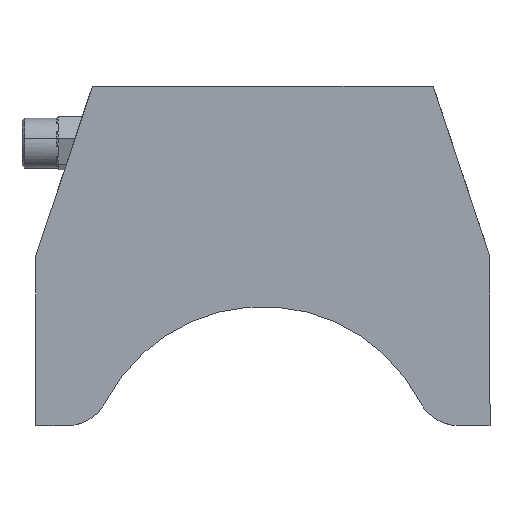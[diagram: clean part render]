
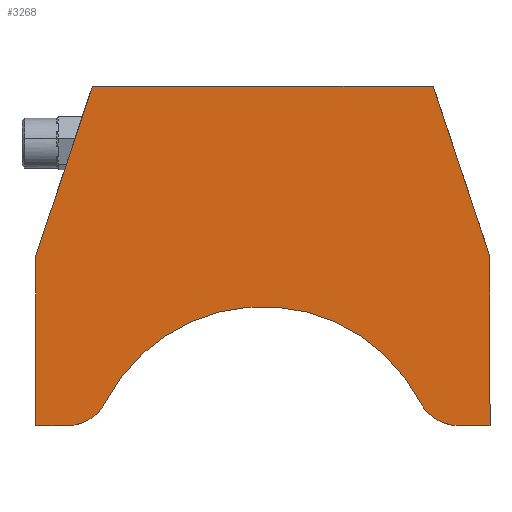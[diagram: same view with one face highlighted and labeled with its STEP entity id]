
A CAD part, left-side view. The second image highlights one B-rep face of the part: STEP entity #3268.
In plain terms, the highlighted planar face has unit normal (-1, 0, 0).
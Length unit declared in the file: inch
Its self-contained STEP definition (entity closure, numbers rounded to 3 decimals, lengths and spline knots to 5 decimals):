
#71 = CARTESIAN_POINT ( 'NONE',  ( 0.39755, -2.13593, 1.52079 ) ) ;
#158 = ORIENTED_EDGE ( 'NONE', *, *, #572, .T. ) ;
#250 = CARTESIAN_POINT ( 'NONE',  ( 0.39755, -1.85692, 1.52079 ) ) ;
#255 = DIRECTION ( 'NONE',  ( 0., 0., -1. ) ) ;
#282 = EDGE_CURVE ( 'Defeatured_0_21+Defeatured_0_14+Defeatured_0_15+Defeatured_0_13', #1347, #433, #2324, .T. ) ;
#294 = EDGE_CURVE ( 'Defeatured_0_21+Defeatured_0_18+Defeatured_0_19+Defeatured_0_17', #937, #3097, #1526, .T. ) ;
#308 = VERTEX_POINT ( 'NONE', #980 ) ;
#433 = VERTEX_POINT ( 'NONE', #2859 ) ;
#443 = DIRECTION ( 'NONE',  ( 0., 0.316, 0.949 ) ) ;
#452 = LINE ( 'NONE', #858, #3447 ) ;
#470 = CARTESIAN_POINT ( 'NONE',  ( 0.39755, -5.85692, 3.00579 ) ) ;
#487 = CARTESIAN_POINT ( 'NONE',  ( 0.39755, -2.13593, 1.89579 ) ) ;
#512 = DIRECTION ( 'NONE',  ( -1., 0., 0. ) ) ;
#516 = DIRECTION ( 'NONE',  ( 0., -1., 0. ) ) ;
#558 = DIRECTION ( 'NONE',  ( 0., 1., 0. ) ) ;
#563 = DIRECTION ( 'NONE',  ( 0., 1., 0. ) ) ;
#572 = EDGE_CURVE ( 'Defeatured_0_21+Defeatured_0_17+Defeatured_0_18+Defeatured_0_16', #3097, #3119, #452, .T. ) ;
#581 = CIRCLE ( 'NONE', #2686, 0.375 ) ;
#631 = FACE_OUTER_BOUND ( 'NONE', #2240, .T. ) ;
#669 = EDGE_CURVE ( 'Defeatured_0_21+Defeatured_0_19+Defeatured_0_10+Defeatured_0_18', #308, #937, #3490, .T. ) ;
#734 = CARTESIAN_POINT ( 'NONE',  ( 0.39755, -5.85692, 3.00579 ) ) ;
#817 = CARTESIAN_POINT ( 'NONE',  ( 0.39755, -2.13593, 1.89579 ) ) ;
#858 = CARTESIAN_POINT ( 'NONE',  ( 0.39755, -1.85692, 3.00579 ) ) ;
#874 = VECTOR ( 'NONE', #898, 39.37008 ) ;
#898 = DIRECTION ( 'NONE',  ( 0., -1., 0. ) ) ;
#937 = VERTEX_POINT ( 'NONE', #2671 ) ;
#947 = CARTESIAN_POINT ( 'NONE',  ( 0.39755, -1.85692, 3.00579 ) ) ;
#980 = CARTESIAN_POINT ( 'NONE',  ( 0.39755, -5.35692, 4.50579 ) ) ;
#981 = EDGE_CURVE ( 'Defeatured_0_21+Defeatured_0_11+Defeatured_0_12+Defeatured_0_10', #2289, #2053, #1967, .T. ) ;
#1021 = AXIS2_PLACEMENT_3D ( 'NONE', #487, #2643, #1700 ) ;
#1196 = CARTESIAN_POINT ( 'NONE',  ( 0.39755, -5.85692, 3.00579 ) ) ;
#1218 = CARTESIAN_POINT ( 'NONE',  ( 0.39755, -3.85692, 1.00579 ) ) ;
#1229 = ORIENTED_EDGE ( 'NONE', *, *, #3709, .T. ) ;
#1347 = VERTEX_POINT ( 'NONE', #2396 ) ;
#1526 = LINE ( 'NONE', #2069, #2781 ) ;
#1535 = DIRECTION ( 'NONE',  ( 0., -1., 0. ) ) ;
#1633 = LINE ( 'NONE', #3330, #874 ) ;
#1700 = DIRECTION ( 'NONE',  ( 0., -1., 0. ) ) ;
#1750 = AXIS2_PLACEMENT_3D ( 'NONE', #1218, #2209, #3133 ) ;
#1833 = AXIS2_PLACEMENT_3D ( 'NONE', #817, #3261, #516 ) ;
#1931 = ORIENTED_EDGE ( 'NONE', *, *, #2602, .T. ) ;
#1967 = LINE ( 'NONE', #1196, #2249 ) ;
#2053 = VERTEX_POINT ( 'NONE', #734 ) ;
#2062 = CARTESIAN_POINT ( 'NONE',  ( 0.39755, -5.57791, 1.89579 ) ) ;
#2069 = CARTESIAN_POINT ( 'NONE',  ( 0.39755, -1.85692, 3.00579 ) ) ;
#2073 = CARTESIAN_POINT ( 'NONE',  ( 0.39755, -5.85692, 1.52079 ) ) ;
#2097 = CARTESIAN_POINT ( 'NONE',  ( 0.39755, -2.35692, 4.50579 ) ) ;
#2142 = ORIENTED_EDGE ( 'NONE', *, *, #3844, .T. ) ;
#2159 = EDGE_CURVE ( 'Defeatured_0_21+Defeatured_0_16+Defeatured_0_17+Defeatured_0_15', #3119, #3121, #3593, .T. ) ;
#2206 = CARTESIAN_POINT ( 'NONE',  ( 0.39755, -5.57791, 1.52079 ) ) ;
#2209 = DIRECTION ( 'NONE',  ( 1., 0., 0. ) ) ;
#2240 = EDGE_LOOP ( 'NONE', ( #1229, #3508, #3557, #158, #2868, #1931, #3878, #2142, #2691, #2915 ) ) ;
#2249 = VECTOR ( 'NONE', #2979, 39.37008 ) ;
#2267 = CIRCLE ( 'NONE', #1021, 0.375 ) ;
#2289 = VERTEX_POINT ( 'NONE', #2073 ) ;
#2324 = CIRCLE ( 'NONE', #1750, 1.5625 ) ;
#2351 = PLANE ( 'NONE',  #1833 ) ;
#2396 = CARTESIAN_POINT ( 'NONE',  ( 0.39755, -2.46902, 1.72353 ) ) ;
#2522 = VECTOR ( 'NONE', #443, 39.37008 ) ;
#2602 = EDGE_CURVE ( 'Defeatured_0_21+Defeatured_0_15+Defeatured_0_16+Defeatured_0_14', #3121, #1347, #2267, .T. ) ;
#2626 = LINE ( 'NONE', #470, #2522 ) ;
#2643 = DIRECTION ( 'NONE',  ( -1., 0., 0. ) ) ;
#2671 = CARTESIAN_POINT ( 'NONE',  ( 0.39755, -2.35692, 4.50579 ) ) ;
#2686 = AXIS2_PLACEMENT_3D ( 'NONE', #2062, #512, #563 ) ;
#2691 = ORIENTED_EDGE ( 'NONE', *, *, #3874, .T. ) ;
#2772 = VERTEX_POINT ( 'NONE', #2206 ) ;
#2781 = VECTOR ( 'NONE', #3093, 39.37008 ) ;
#2859 = CARTESIAN_POINT ( 'NONE',  ( 0.39755, -5.24481, 1.72353 ) ) ;
#2868 = ORIENTED_EDGE ( 'NONE', *, *, #2159, .T. ) ;
#2915 = ORIENTED_EDGE ( 'NONE', *, *, #981, .T. ) ;
#2979 = DIRECTION ( 'NONE',  ( 0., 0., 1. ) ) ;
#3093 = DIRECTION ( 'NONE',  ( 0., 0.316, -0.949 ) ) ;
#3097 = VERTEX_POINT ( 'NONE', #947 ) ;
#3105 = VECTOR ( 'NONE', #1535, 39.37008 ) ;
#3119 = VERTEX_POINT ( 'NONE', #3673 ) ;
#3121 = VERTEX_POINT ( 'NONE', #71 ) ;
#3133 = DIRECTION ( 'NONE',  ( 0., -1., 0. ) ) ;
#3261 = DIRECTION ( 'NONE',  ( -1., 0., 0. ) ) ;
#3268 = ADVANCED_FACE ( 'Defeatured_0_21', ( #631 ), #2351, .T. ) ;
#3330 = CARTESIAN_POINT ( 'NONE',  ( 0.39755, -5.57791, 1.52079 ) ) ;
#3447 = VECTOR ( 'NONE', #255, 39.37008 ) ;
#3490 = LINE ( 'NONE', #2097, #3867 ) ;
#3508 = ORIENTED_EDGE ( 'NONE', *, *, #669, .T. ) ;
#3557 = ORIENTED_EDGE ( 'NONE', *, *, #294, .T. ) ;
#3593 = LINE ( 'NONE', #250, #3105 ) ;
#3673 = CARTESIAN_POINT ( 'NONE',  ( 0.39755, -1.85692, 1.52079 ) ) ;
#3709 = EDGE_CURVE ( 'Defeatured_0_21+Defeatured_0_10+Defeatured_0_11+Defeatured_0_19', #2053, #308, #2626, .T. ) ;
#3844 = EDGE_CURVE ( 'Defeatured_0_21+Defeatured_0_13+Defeatured_0_14+Defeatured_0_12', #433, #2772, #581, .T. ) ;
#3867 = VECTOR ( 'NONE', #558, 39.37008 ) ;
#3874 = EDGE_CURVE ( 'Defeatured_0_21+Defeatured_0_12+Defeatured_0_13+Defeatured_0_11', #2772, #2289, #1633, .T. ) ;
#3878 = ORIENTED_EDGE ( 'NONE', *, *, #282, .T. ) ;
